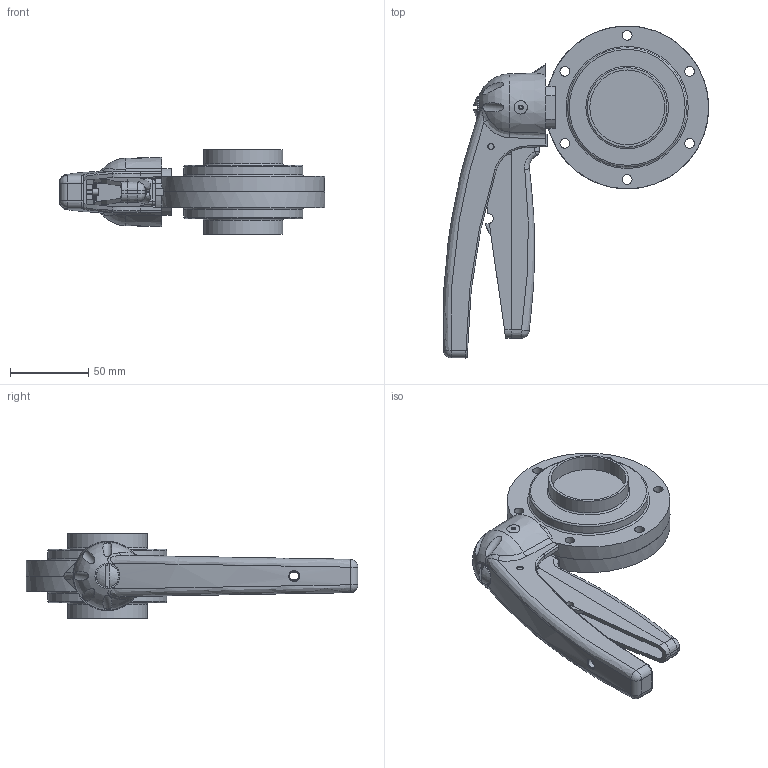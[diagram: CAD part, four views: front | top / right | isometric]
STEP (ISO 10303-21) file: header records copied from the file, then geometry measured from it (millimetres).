
FILE_DESCRIPTION(/* description */ ('VVF VALV.FARF.DN50.8 S/S EPDM 316 LEVA 5POS.'),/* implementation_level */ '2;1');
FILE_NAME(/* name */ 'C:\_DED_PWS\GIOR-G\DB\B\EBA\BEBAAL200BEAA-00^SAGOMA.step',/* time_stamp */ '2020-10-08T13:37:37+02:00',/* author */ (''),/* organization */ (''),/* preprocessor_version */ 'ST-DEVELOPER v18',/* originating_system */ 'Autodesk Inventor 2020',/* authorisation */ '');
FILE_SCHEMA (('CONFIG_CONTROL_DESIGN'));
Length unit declared in the file: millimetre
Products named in the file (3): BEBAAL200BEAA; MEZZO-COR-DN050.8-SALD-INCHES; Maniglia-5-posizioni-nuova-versione finale 01-2008- 25 - - 65
Assembly tree (3 placements, depth 2):
  BEBAAL200BEAA
    MEZZO-COR-DN050.8-SALD-INCHES  x2
    Maniglia-5-posizioni-nuova-versione finale 01-2008- 25 - - 65
Bounding box: 169.39 x 212 x 54 mm (x, y, z)
Volume: 340636.3 mm3; surface area: 107374.9 mm2
Topology: 3 solids, 4 shells, 446 faces, 1197 edges, 776 vertices
Faces by surface type: plane 198, cylinder 106, bspline 81, cone 28, sphere 18, torus 15
Full cylindrical faces by diameter (mm): 4 x3, 6 x2, 6.2 x12, 6.5 x1, 11.5 x2, 13 x1, 14.5 x1, 47.8 x2, 50.8 x2, 76 x2, 104 x2
Entity records: 22638 total; most frequent: CARTESIAN_POINT 12062, ORIENTED_EDGE 2264, DIRECTION 1926, EDGE_CURVE 1132, VERTEX_POINT 729, AXIS2_PLACEMENT_3D 696, LINE 534, VECTOR 534
